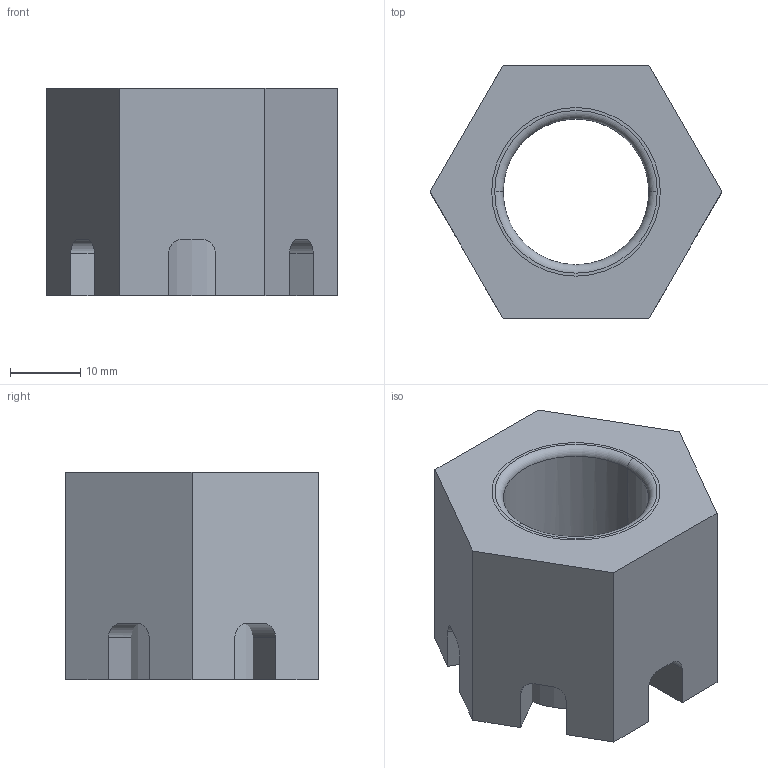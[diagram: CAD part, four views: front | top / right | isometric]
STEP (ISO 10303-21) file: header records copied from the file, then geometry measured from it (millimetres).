
FILE_DESCRIPTION((''),'2;1');
FILE_NAME('M24_GB6179','2020-05-06T',('Administrator'),(''),'PRO/ENGINEER BY PARAMETRIC TECHNOLOGY CORPORATION, 2010280','PRO/ENGINEER BY PARAMETRIC TECHNOLOGY CORPORATION, 2010280','');
FILE_SCHEMA(());
Length unit declared in the file: millimetre
Products named in the file (1): M24_GB6179
Bounding box: 41.57 x 36 x 29.5 mm (x, y, z)
Volume: 20683.6 mm3; surface area: 9433.6 mm2
Topology: 1 solids, 2 shells, 49 faces, 142 edges, 94 vertices
Faces by surface type: plane 31, cylinder 16, torus 2
Entity records: 1717 total; most frequent: CARTESIAN_POINT 394, ORIENTED_EDGE 280, DIRECTION 266, EDGE_CURVE 142, VECTOR 94, LINE 94, VERTEX_POINT 94, AXIS2_PLACEMENT_3D 86
